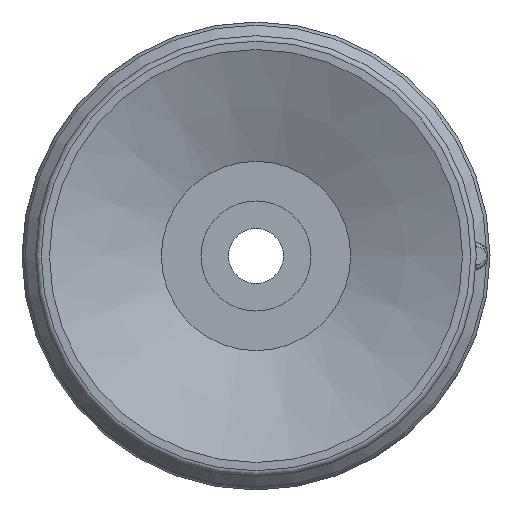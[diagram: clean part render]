
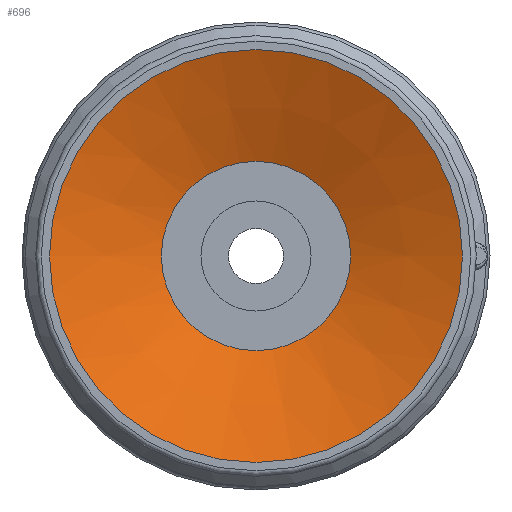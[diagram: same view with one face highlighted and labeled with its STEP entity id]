
A CAD part, front view. The second image highlights one B-rep face of the part: STEP entity #696.
In plain terms, the highlighted conical face has half-angle 67.5 degrees and reference radius 3.437 mm.
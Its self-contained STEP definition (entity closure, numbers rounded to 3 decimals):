
#696=ADVANCED_FACE('',(#977,#978),#979,.F.);
#977=FACE_BOUND('',#2301,.T.);
#978=FACE_OUTER_BOUND('',#2302,.T.);
#979=CONICAL_SURFACE('',#2303,3.437,1.178);
#2301=EDGE_LOOP('',(#2986));
#2302=EDGE_LOOP('',(#2987));
#2303=AXIS2_PLACEMENT_3D('',#2988,#2989,#2990);
#2986=ORIENTED_EDGE('',*,*,#3279,.F.);
#2987=ORIENTED_EDGE('',*,*,#3267,.T.);
#2988=CARTESIAN_POINT('',(0.0,0.0,1.683));
#2989=DIRECTION('',(0.0,0.,-1.0));
#2990=DIRECTION('',(0.0,1.0,0.));
#3267=EDGE_CURVE('',#3581,#3581,#3582,.T.);
#3279=EDGE_CURVE('',#3605,#3605,#3606,.T.);
#3581=VERTEX_POINT('',#4450);
#3582=CIRCLE('',#4451,7.5);
#3605=VERTEX_POINT('',#4474);
#3606=CIRCLE('',#4475,3.437);
#4450=CARTESIAN_POINT('',(-7.5,0.0,0.));
#4451=AXIS2_PLACEMENT_3D('',#4776,#4777,#4778);
#4474=CARTESIAN_POINT('',(-3.437,0.0,1.683));
#4475=AXIS2_PLACEMENT_3D('',#4812,#4813,#4814);
#4776=CARTESIAN_POINT('',(0.0,0.0,0.));
#4777=DIRECTION('',(0.0,0.,-1.0));
#4778=DIRECTION('',(0.0,1.0,0.));
#4812=CARTESIAN_POINT('',(0.0,0.0,1.683));
#4813=DIRECTION('',(0.0,0.,-1.0));
#4814=DIRECTION('',(0.0,1.0,0.));
